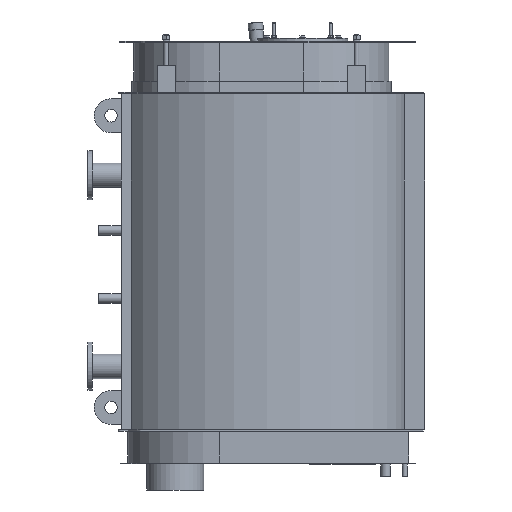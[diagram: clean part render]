
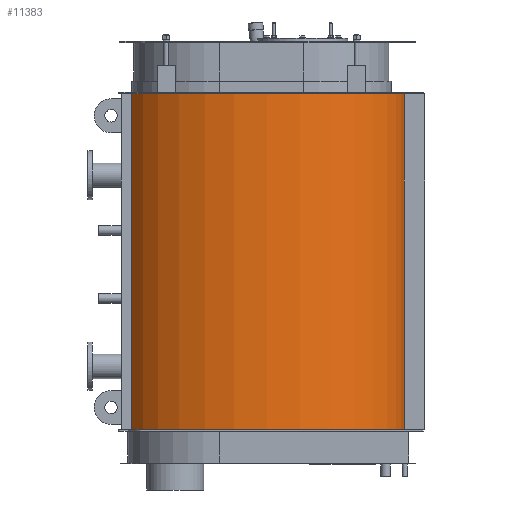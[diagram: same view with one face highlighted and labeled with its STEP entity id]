
A CAD part, left-side view. The second image highlights one B-rep face of the part: STEP entity #11383.
In plain terms, the highlighted free-form (B-spline) face has degree [3, 1] with [7, 2] control points.
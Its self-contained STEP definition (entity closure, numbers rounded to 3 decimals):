
#69 =( BOUNDED_SURFACE ( )  B_SPLINE_SURFACE ( 3, 1, ( 
 ( #10482, #11435 ),
 ( #4413, #11475 ),
 ( #5435, #12485 ),
 ( #6428, #386 ),
 ( #7460, #1409 ),
 ( #8475, #2435 ),
 ( #9477, #3432 ) ),
 .UNSPECIFIED., .F., .F., .F. ) 
 B_SPLINE_SURFACE_WITH_KNOTS ( ( 4, 3, 4 ),
 ( 2, 2 ),
 ( 0., 0.5, 1. ),
 ( 0., 1. ),
 .UNSPECIFIED. ) 
 GEOMETRIC_REPRESENTATION_ITEM ( )  RATIONAL_B_SPLINE_SURFACE ( (
 ( 1., 1.),
 ( 0.488, 0.488),
 ( 0.488, 0.488),
 ( 1., 1.),
 ( 0.488, 0.488),
 ( 0.488, 0.488),
 ( 1., 1.) ) ) 
 REPRESENTATION_ITEM ( '' )  SURFACE ( )  );
#386 = CARTESIAN_POINT ( 'NONE',  ( 0., -462.089, 8. ) ) ;
#481 = ORIENTED_EDGE ( 'NONE', *, *, #2164, .F. ) ;
#645 = CARTESIAN_POINT ( 'NONE',  ( 200.083, 754., 1488. ) ) ;
#750 = CARTESIAN_POINT ( 'NONE',  ( -200.083, 754., 8. ) ) ;
#821 = CARTESIAN_POINT ( 'NONE',  ( -200.083, 754., 1488. ) ) ;
#894 = FACE_OUTER_BOUND ( 'NONE', #2076, .T. ) ;
#1051 = CARTESIAN_POINT ( 'NONE',  ( -726.26, 368.734, 8. ) ) ;
#1409 = CARTESIAN_POINT ( 'NONE',  ( 589.565, -462.089, 8. ) ) ;
#1707 = VERTEX_POINT ( 'NONE', #11423 ) ;
#1731 =( BOUNDED_CURVE ( )  B_SPLINE_CURVE ( 3, ( #821, #11801, #11899, #7712, #3442, #6686, #6159 ),
 .UNSPECIFIED., .F., .F. ) 
 B_SPLINE_CURVE_WITH_KNOTS ( ( 4, 3, 4 ),
 ( 0.468, 3.142, 5.815 ),
 .UNSPECIFIED. ) 
 CURVE ( )  GEOMETRIC_REPRESENTATION_ITEM ( )  RATIONAL_B_SPLINE_CURVE ( ( 1., 0.488, 0.488, 1., 0.488, 0.488, 1. ) ) 
 REPRESENTATION_ITEM ( '' )  );
#1844 = CARTESIAN_POINT ( 'NONE',  ( 200.083, 754., 8. ) ) ;
#2076 = EDGE_LOOP ( 'NONE', ( #9803, #481, #10945, #5414 ) ) ;
#2096 = CARTESIAN_POINT ( 'NONE',  ( -589.565, -462.089, 8. ) ) ;
#2164 = EDGE_CURVE ( 'NONE', #1707, #3819, #11611, .T. ) ;
#2308 = EDGE_CURVE ( 'NONE', #11416, #1707, #1731, .T. ) ;
#2435 = CARTESIAN_POINT ( 'NONE',  ( 726.26, 368.734, 8. ) ) ;
#3104 = CARTESIAN_POINT ( 'NONE',  ( 589.565, -462.089, 8. ) ) ;
#3404 = LINE ( 'NONE', #5335, #7842 ) ;
#3432 = CARTESIAN_POINT ( 'NONE',  ( 200.083, 754., 8. ) ) ;
#3442 = CARTESIAN_POINT ( 'NONE',  ( 589.565, -462.089, 1488. ) ) ;
#3650 =( BOUNDED_CURVE ( )  B_SPLINE_CURVE ( 3, ( #6111, #1051, #2096, #9142, #3104, #10185, #4120 ),
 .UNSPECIFIED., .F., .F. ) 
 B_SPLINE_CURVE_WITH_KNOTS ( ( 4, 3, 4 ),
 ( 0.468, 3.142, 5.815 ),
 .UNSPECIFIED. ) 
 CURVE ( )  GEOMETRIC_REPRESENTATION_ITEM ( )  RATIONAL_B_SPLINE_CURVE ( ( 1., 0.488, 0.488, 1., 0.488, 0.488, 1. ) ) 
 REPRESENTATION_ITEM ( '' )  );
#3819 = VERTEX_POINT ( 'NONE', #1844 ) ;
#4120 = CARTESIAN_POINT ( 'NONE',  ( 200.083, 754., 8. ) ) ;
#4413 = CARTESIAN_POINT ( 'NONE',  ( -726.26, 368.734, 1488. ) ) ;
#5286 = EDGE_CURVE ( 'NONE', #10530, #3819, #3650, .T. ) ;
#5335 = CARTESIAN_POINT ( 'NONE',  ( -200.083, 754., 1488. ) ) ;
#5414 = ORIENTED_EDGE ( 'NONE', *, *, #7503, .T. ) ;
#5435 = CARTESIAN_POINT ( 'NONE',  ( -589.565, -462.089, 1488. ) ) ;
#6111 = CARTESIAN_POINT ( 'NONE',  ( -200.083, 754., 8. ) ) ;
#6159 = CARTESIAN_POINT ( 'NONE',  ( 200.083, 754., 1488. ) ) ;
#6428 = CARTESIAN_POINT ( 'NONE',  ( 0., -462.089, 1488. ) ) ;
#6686 = CARTESIAN_POINT ( 'NONE',  ( 726.26, 368.734, 1488. ) ) ;
#7460 = CARTESIAN_POINT ( 'NONE',  ( 589.565, -462.089, 1488. ) ) ;
#7503 = EDGE_CURVE ( 'NONE', #11416, #10530, #3404, .T. ) ;
#7712 = CARTESIAN_POINT ( 'NONE',  ( 0., -462.089, 1488. ) ) ;
#7842 = VECTOR ( 'NONE', #12380, 1000. ) ;
#8475 = CARTESIAN_POINT ( 'NONE',  ( 726.26, 368.734, 1488. ) ) ;
#9142 = CARTESIAN_POINT ( 'NONE',  ( 0., -462.089, 8. ) ) ;
#9228 = VECTOR ( 'NONE', #9406, 1000. ) ;
#9406 = DIRECTION ( 'NONE',  ( 0., 0., -1. ) ) ;
#9477 = CARTESIAN_POINT ( 'NONE',  ( 200.083, 754., 1488. ) ) ;
#9803 = ORIENTED_EDGE ( 'NONE', *, *, #5286, .T. ) ;
#10185 = CARTESIAN_POINT ( 'NONE',  ( 726.26, 368.734, 8. ) ) ;
#10482 = CARTESIAN_POINT ( 'NONE',  ( -200.083, 754., 1488. ) ) ;
#10530 = VERTEX_POINT ( 'NONE', #750 ) ;
#10558 = CARTESIAN_POINT ( 'NONE',  ( -200.083, 754., 1488. ) ) ;
#10945 = ORIENTED_EDGE ( 'NONE', *, *, #2308, .F. ) ;
#11383 = ADVANCED_FACE ( 'NONE', ( #894 ), #69, .F. ) ;
#11416 = VERTEX_POINT ( 'NONE', #10558 ) ;
#11423 = CARTESIAN_POINT ( 'NONE',  ( 200.083, 754., 1488. ) ) ;
#11435 = CARTESIAN_POINT ( 'NONE',  ( -200.083, 754., 8. ) ) ;
#11475 = CARTESIAN_POINT ( 'NONE',  ( -726.26, 368.734, 8. ) ) ;
#11611 = LINE ( 'NONE', #645, #9228 ) ;
#11801 = CARTESIAN_POINT ( 'NONE',  ( -726.26, 368.734, 1488. ) ) ;
#11899 = CARTESIAN_POINT ( 'NONE',  ( -589.565, -462.089, 1488. ) ) ;
#12380 = DIRECTION ( 'NONE',  ( 0., 0., -1. ) ) ;
#12485 = CARTESIAN_POINT ( 'NONE',  ( -589.565, -462.089, 8. ) ) ;
